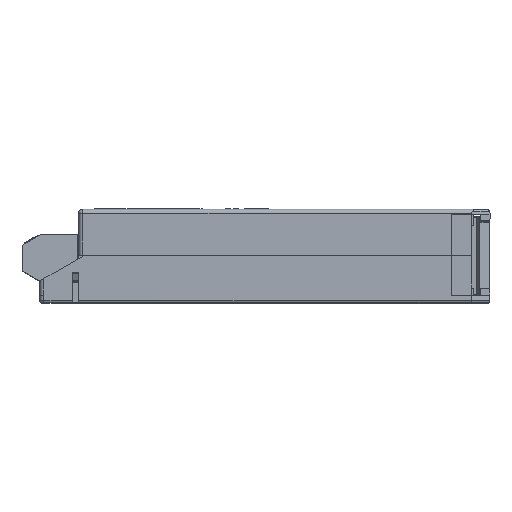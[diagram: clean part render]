
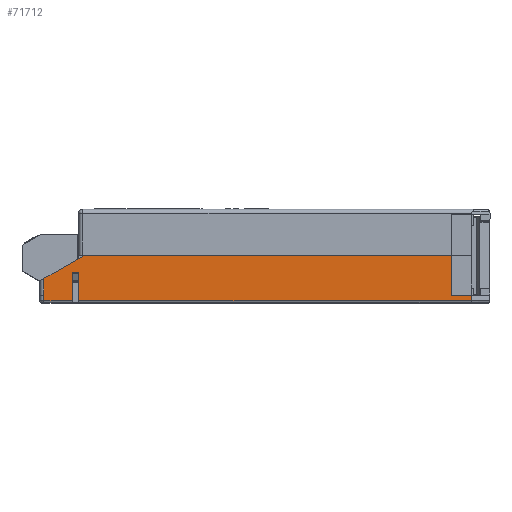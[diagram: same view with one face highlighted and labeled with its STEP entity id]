
A CAD part, top view. The second image highlights one B-rep face of the part: STEP entity #71712.
In plain terms, the highlighted planar face has unit normal (0, 0, 1).
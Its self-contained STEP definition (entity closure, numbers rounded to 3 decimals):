
#792 = ORIENTED_EDGE ( 'NONE', *, *, #57028, .F. ) ;
#912 = DIRECTION ( 'NONE',  ( 1., 0., 0. ) ) ;
#1346 = ORIENTED_EDGE ( 'NONE', *, *, #69809, .F. ) ;
#1448 = ORIENTED_EDGE ( 'NONE', *, *, #42767, .T. ) ;
#2622 = CARTESIAN_POINT ( 'NONE',  ( -46.669, 11.55, 45.915 ) ) ;
#2930 = LINE ( 'NONE', #50027, #62875 ) ;
#5505 = EDGE_CURVE ( 'NONE', #28424, #84287, #47845, .T. ) ;
#5522 = DIRECTION ( 'NONE',  ( 1., 0., 0. ) ) ;
#6366 = LINE ( 'NONE', #12417, #28333 ) ;
#7998 = EDGE_CURVE ( 'NONE', #70266, #28424, #86138, .T. ) ;
#8397 = CARTESIAN_POINT ( 'NONE',  ( -48.169, 0.5, 45.915 ) ) ;
#11396 = DIRECTION ( 'NONE',  ( -1., 0., 0. ) ) ;
#12417 = CARTESIAN_POINT ( 'NONE',  ( -56.669, 1.8, 45.915 ) ) ;
#15211 = CARTESIAN_POINT ( 'NONE',  ( -48.169, 1.8, 45.915 ) ) ;
#15341 = ORIENTED_EDGE ( 'NONE', *, *, #57001, .F. ) ;
#15730 = EDGE_CURVE ( 'NONE', #55470, #60931, #26978, .T. ) ;
#20347 = LINE ( 'NONE', #54401, #75148 ) ;
#20485 = LINE ( 'NONE', #2622, #28868 ) ;
#21366 = ORIENTED_EDGE ( 'NONE', *, *, #57073, .F. ) ;
#23019 = VECTOR ( 'NONE', #61158, 1000. ) ;
#26244 = CARTESIAN_POINT ( 'NONE',  ( 47.828, 1.8, 45.915 ) ) ;
#26399 = ORIENTED_EDGE ( 'NONE', *, *, #7998, .T. ) ;
#26978 = LINE ( 'NONE', #31041, #39633 ) ;
#28333 = VECTOR ( 'NONE', #46517, 1000. ) ;
#28352 = VERTEX_POINT ( 'NONE', #76267 ) ;
#28424 = VERTEX_POINT ( 'NONE', #8397 ) ;
#28868 = VECTOR ( 'NONE', #83106, 1000. ) ;
#30145 = VERTEX_POINT ( 'NONE', #41684 ) ;
#31041 = CARTESIAN_POINT ( 'NONE',  ( -49.669, 1.8, 45.915 ) ) ;
#31441 = LINE ( 'NONE', #73187, #60949 ) ;
#32537 = ORIENTED_EDGE ( 'NONE', *, *, #5505, .T. ) ;
#32548 = LINE ( 'NONE', #34938, #65169 ) ;
#32618 = ORIENTED_EDGE ( 'NONE', *, *, #15730, .F. ) ;
#33039 = CARTESIAN_POINT ( 'NONE',  ( 47.828, 1.8, 45.915 ) ) ;
#33260 = EDGE_CURVE ( 'NONE', #43271, #86308, #40911, .T. ) ;
#34830 = CARTESIAN_POINT ( 'NONE',  ( -56.669, 1.8, 45.915 ) ) ;
#34938 = CARTESIAN_POINT ( 'NONE',  ( 47.828, 1.8, 45.915 ) ) ;
#37346 = EDGE_CURVE ( 'NONE', #58454, #60941, #6366, .T. ) ;
#39633 = VECTOR ( 'NONE', #51366, 1000. ) ;
#40874 = DIRECTION ( 'NONE',  ( 0., -1., 0. ) ) ;
#40911 = LINE ( 'NONE', #26244, #57760 ) ;
#41684 = CARTESIAN_POINT ( 'NONE',  ( 42.831, 11.55, 45.915 ) ) ;
#42767 = EDGE_CURVE ( 'NONE', #28352, #60931, #66826, .T. ) ;
#42917 = ORIENTED_EDGE ( 'NONE', *, *, #47269, .T. ) ;
#43041 = VECTOR ( 'NONE', #81481, 1000. ) ;
#43271 = VERTEX_POINT ( 'NONE', #70637 ) ;
#44919 = CARTESIAN_POINT ( 'NONE',  ( 47.828, 1.8, 45.915 ) ) ;
#46517 = DIRECTION ( 'NONE',  ( 0., -1., 0. ) ) ;
#47248 = LINE ( 'NONE', #55274, #43041 ) ;
#47269 = EDGE_CURVE ( 'NONE', #78672, #58454, #2930, .T. ) ;
#47394 = FACE_OUTER_BOUND ( 'NONE', #67587, .T. ) ;
#47845 = LINE ( 'NONE', #86716, #82618 ) ;
#50027 = CARTESIAN_POINT ( 'NONE',  ( -46.669, 11.55, 45.915 ) ) ;
#50376 = CARTESIAN_POINT ( 'NONE',  ( -48.169, 7.3, 45.915 ) ) ;
#51070 = EDGE_CURVE ( 'NONE', #60941, #28352, #20347, .T. ) ;
#51366 = DIRECTION ( 'NONE',  ( 0., -1., 0. ) ) ;
#51663 = DIRECTION ( 'NONE',  ( 0., 0., -1. ) ) ;
#54401 = CARTESIAN_POINT ( 'NONE',  ( -56.669, 1.8, 45.915 ) ) ;
#54672 = DIRECTION ( 'NONE',  ( 0., -1., 0. ) ) ;
#55164 = CARTESIAN_POINT ( 'NONE',  ( -49.669, 0.5, 45.915 ) ) ;
#55274 = CARTESIAN_POINT ( 'NONE',  ( -49.669, 7.3, 45.915 ) ) ;
#55470 = VERTEX_POINT ( 'NONE', #64631 ) ;
#56788 = DIRECTION ( 'NONE',  ( -0.869, -0.494, 0. ) ) ;
#57001 = EDGE_CURVE ( 'NONE', #30145, #43271, #31441, .T. ) ;
#57028 = EDGE_CURVE ( 'NONE', #70266, #55470, #47248, .T. ) ;
#57073 = EDGE_CURVE ( 'NONE', #86308, #84287, #32548, .T. ) ;
#57549 = DIRECTION ( 'NONE',  ( 1., 0., 0. ) ) ;
#57760 = VECTOR ( 'NONE', #5522, 1000. ) ;
#58454 = VERTEX_POINT ( 'NONE', #66638 ) ;
#60931 = VERTEX_POINT ( 'NONE', #55164 ) ;
#60941 = VERTEX_POINT ( 'NONE', #34830 ) ;
#60949 = VECTOR ( 'NONE', #80045, 1000. ) ;
#61158 = DIRECTION ( 'NONE',  ( 0., -1., 0. ) ) ;
#62875 = VECTOR ( 'NONE', #56788, 1000. ) ;
#64631 = CARTESIAN_POINT ( 'NONE',  ( -49.669, 7.3, 45.915 ) ) ;
#65169 = VECTOR ( 'NONE', #54672, 1000. ) ;
#66638 = CARTESIAN_POINT ( 'NONE',  ( -56.669, 5.868, 45.915 ) ) ;
#66826 = LINE ( 'NONE', #82838, #72043 ) ;
#67020 = AXIS2_PLACEMENT_3D ( 'NONE', #44919, #51663, #11396 ) ;
#67587 = EDGE_LOOP ( 'NONE', ( #42917, #87056, #78763, #1448, #32618, #792, #26399, #32537, #21366, #69108, #15341, #1346 ) ) ;
#69108 = ORIENTED_EDGE ( 'NONE', *, *, #33260, .F. ) ;
#69809 = EDGE_CURVE ( 'NONE', #78672, #30145, #20485, .T. ) ;
#70266 = VERTEX_POINT ( 'NONE', #50376 ) ;
#70637 = CARTESIAN_POINT ( 'NONE',  ( 42.831, 1.8, 45.915 ) ) ;
#71310 = CARTESIAN_POINT ( 'NONE',  ( 47.828, 0.5, 45.915 ) ) ;
#71712 = ADVANCED_FACE ( 'NONE', ( #47394 ), #85211, .F. ) ;
#72043 = VECTOR ( 'NONE', #57549, 1000. ) ;
#72484 = CARTESIAN_POINT ( 'NONE',  ( -46.669, 11.55, 45.915 ) ) ;
#73187 = CARTESIAN_POINT ( 'NONE',  ( 42.831, 11.55, 45.915 ) ) ;
#75148 = VECTOR ( 'NONE', #40874, 1000. ) ;
#76267 = CARTESIAN_POINT ( 'NONE',  ( -56.669, 0.5, 45.915 ) ) ;
#78672 = VERTEX_POINT ( 'NONE', #72484 ) ;
#78763 = ORIENTED_EDGE ( 'NONE', *, *, #51070, .T. ) ;
#80045 = DIRECTION ( 'NONE',  ( 0., -1., 0. ) ) ;
#81481 = DIRECTION ( 'NONE',  ( -1., 0., 0. ) ) ;
#82618 = VECTOR ( 'NONE', #912, 1000. ) ;
#82838 = CARTESIAN_POINT ( 'NONE',  ( -49.669, 0.5, 45.915 ) ) ;
#83106 = DIRECTION ( 'NONE',  ( 1., 0., 0. ) ) ;
#84287 = VERTEX_POINT ( 'NONE', #71310 ) ;
#85211 = PLANE ( 'NONE',  #67020 ) ;
#86138 = LINE ( 'NONE', #15211, #23019 ) ;
#86308 = VERTEX_POINT ( 'NONE', #33039 ) ;
#86716 = CARTESIAN_POINT ( 'NONE',  ( 47.828, 0.5, 45.915 ) ) ;
#87056 = ORIENTED_EDGE ( 'NONE', *, *, #37346, .T. ) ;
